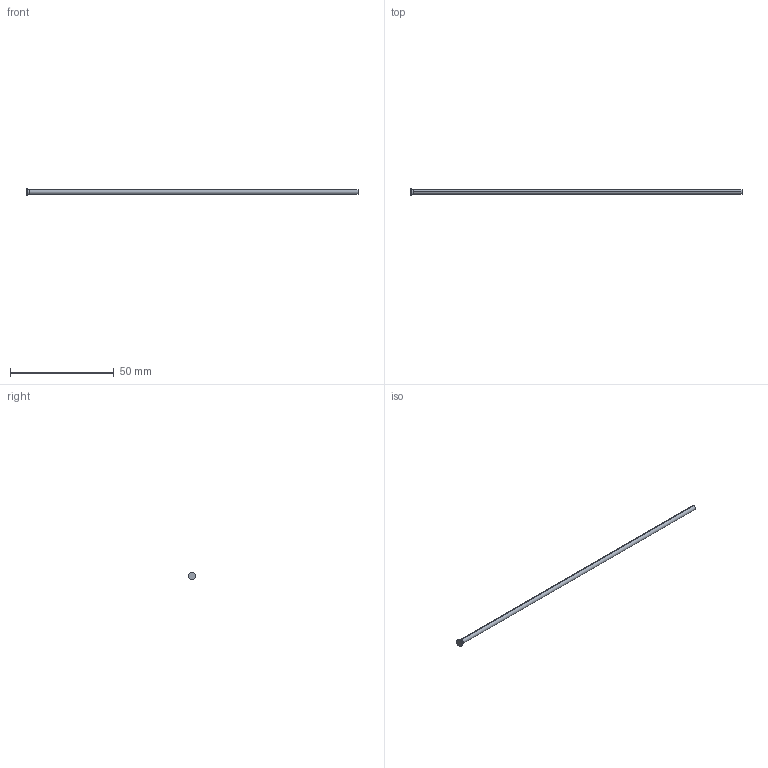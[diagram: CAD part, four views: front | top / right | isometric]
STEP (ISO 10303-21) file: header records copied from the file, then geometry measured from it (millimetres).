
FILE_DESCRIPTION (( 'STEP AP214' ), '1' );
FILE_NAME ('D-2,25x160.STEP', '2020-06-08T10:33:52', ( 'August' ), ( '' ), 'SwSTEP 2.0', 'SolidWorks 2018', '' );
FILE_SCHEMA (( 'AUTOMOTIVE_DESIGN' ));
Length unit declared in the file: millimetre
Products named in the file (1): D-2,25x160
Bounding box: 160 x 3.5 x 3.5 mm (x, y, z)
Volume: 641.9 mm3; surface area: 1150.2 mm2
Topology: 1 solids, 1 shells, 10 faces, 18 edges, 10 vertices
Faces by surface type: cylinder 4, torus 2, cone 2, plane 2
Entity records: 280 total; most frequent: DIRECTION 52, CARTESIAN_POINT 39, ORIENTED_EDGE 36, AXIS2_PLACEMENT_3D 23, EDGE_CURVE 18, CIRCLE 12, VERTEX_POINT 10, ADVANCED_FACE 10
